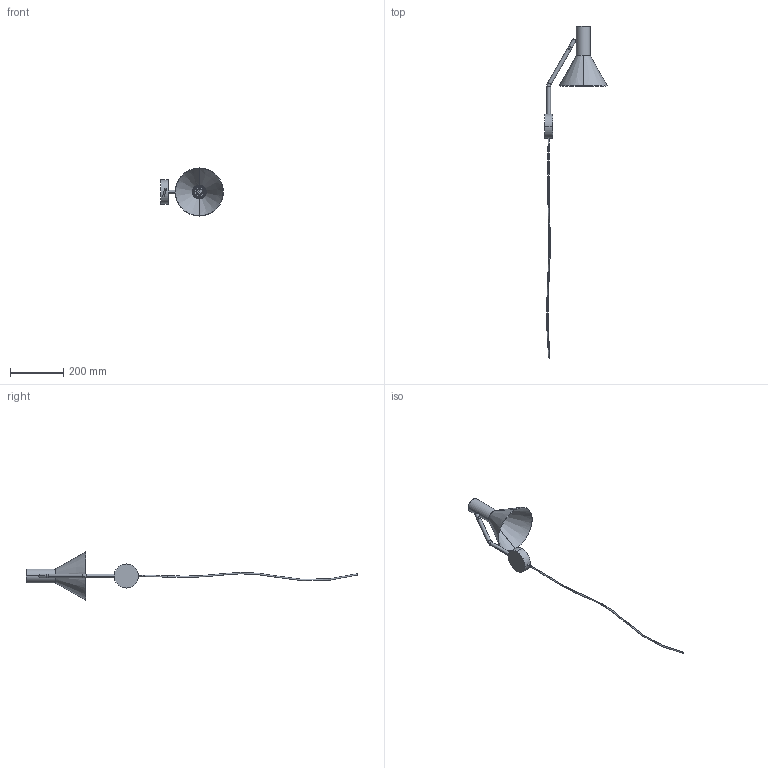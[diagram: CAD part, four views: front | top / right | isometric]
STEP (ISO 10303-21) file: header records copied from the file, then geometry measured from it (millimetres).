
FILE_DESCRIPTION (( 'STEP AP214' ), '1' );
FILE_NAME ('LYSS wall h42cm.STEP', '2020-03-10T12:44:28', ( 'Frandsen Group Administrator' ), ( 'Frandsen Group' ), 'SwSTEP 2.0', 'SolidWorks 2019', '' );
FILE_SCHEMA (( 'AUTOMOTIVE_DESIGN' ));
Length unit declared in the file: millimetre
Products named in the file (16): 70358 Socket bottom white E27 with side hole TP FPL; 38214 Terminal, blue; E27 socket white threaded w 1 ring TP FPL, grounded, w sidehole 70358+70342+70345+381034+38330+70015; 28301 part 2; LYSS shade top; 70342 E27 Socket insert, TP FPL; 70015 - E27 socket ring, white; LYSS base; LYSS shade bottom; (3018) part 1; coord wall; 70345 E27 Socket outer shell, fully threaded, TP FPL, white; 38330 Cable protector E27 KL.2 white; (3018) part 3; LYSS wall h42cm; (3018) Swivel joint ø14x43 with M10x1,0 inner & outer thread_60 deg
Assembly tree (16 placements, depth 3):
  LYSS wall h42cm
    LYSS base
    (3018) Swivel joint ø14x43 with M10x1,0 inner & outer thread_60 deg
      (3018) part 3
      28301 part 2
      (3018) part 1
    LYSS shade top
    coord wall
    E27 socket white threaded w 1 ring TP FPL, grounded, w sidehole 70358+70342+70345+381034+38330+70015
      70358 Socket bottom white E27 with side hole TP FPL
      70342 E27 Socket insert, TP FPL
      70345 E27 Socket outer shell, fully threaded, TP FPL, white
      38214 Terminal, blue  x2
      70015 - E27 socket ring, white
      38330 Cable protector E27 KL.2 white
    LYSS shade bottom
Bounding box: 234.28 x 1242.55 x 180 mm (x, y, z)
Volume: 321331 mm3; surface area: 223970.9 mm2
Topology: 16 solids, 16 shells, 414 faces, 960 edges, 585 vertices
Faces by surface type: cylinder 146, plane 128, cone 84, sphere 32, torus 24
Entity records: 13322 total; most frequent: CARTESIAN_POINT 3196, DIRECTION 2164, ORIENTED_EDGE 1864, EDGE_CURVE 932, AXIS2_PLACEMENT_3D 897, VERTEX_POINT 569, CIRCLE 476, EDGE_LOOP 431
